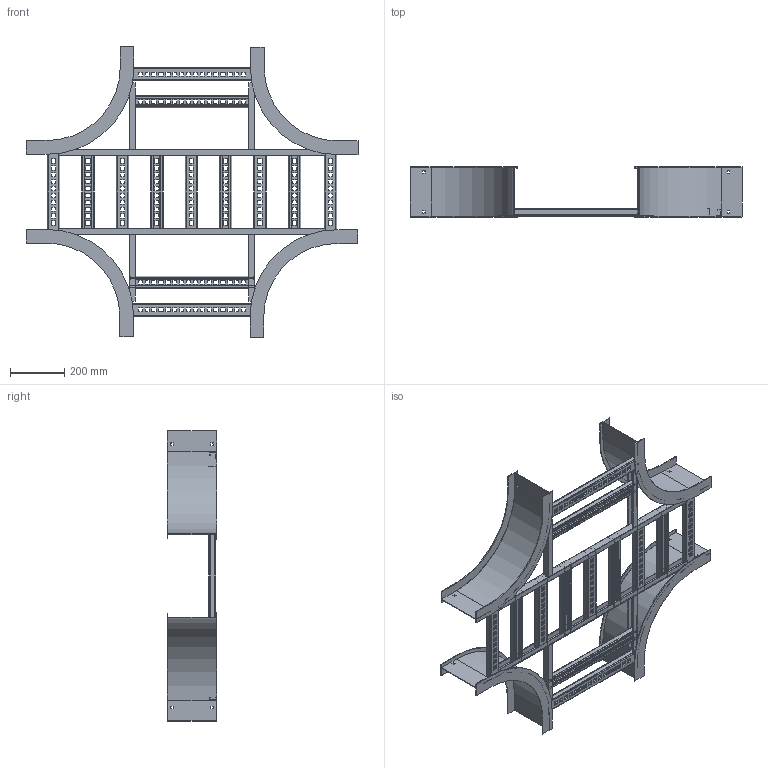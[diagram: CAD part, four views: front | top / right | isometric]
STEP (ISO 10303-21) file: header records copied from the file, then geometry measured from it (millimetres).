
FILE_DESCRIPTION((''),'2;1');
FILE_NAME('AHF71218VEX12_ASM','2010-02-02T',('erouzier'),(''),'PRO/ENGINEER BY PARAMETRIC TECHNOLOGY CORPORATION, 2008510','PRO/ENGINEER BY PARAMETRIC TECHNOLOGY CORPORATION, 2008510','');
FILE_SCHEMA(('CONFIG_CONTROL_DESIGN'));
Length unit declared in the file: inch
Products named in the file (18): CDS001813-7-90-12-I; CDS002159L12-P_AF2374; CDS002159L12-P_AF2375; CDS002159L12-P_AF2376; CDS002159L12-P_AF2377; CDS002159L12-P_AF2378; CDS002159L12-P_AF2379; CDS002159L12-P_AF2380; CDS002159L12-P_AF2382; CDS002159L12-P_AF2381; CDS000495_GEN_AF2172; CDS000495_GEN_AF2173; CDS000495_GEN_AF2176; CDS000495_GEN_AF2177; CDS000495_GEN_AF2174; CDS000495_GEN_AF2175; CDS002159L18-P; AHF71218VEX12_ASM
Assembly tree (23 placements, depth 2):
  AHF71218VEX12_ASM
    CDS001813-7-90-12-I  x4
    CDS002159L12-P_AF2374
    CDS002159L12-P_AF2375
    CDS002159L12-P_AF2376
    CDS002159L12-P_AF2377
    CDS002159L12-P_AF2378
    CDS002159L12-P_AF2379
    CDS002159L12-P_AF2380
    CDS002159L12-P_AF2382
    CDS002159L12-P_AF2381
    CDS000495_GEN_AF2172
    CDS000495_GEN_AF2173
    CDS000495_GEN_AF2176
    CDS000495_GEN_AF2177
    CDS000495_GEN_AF2174
    CDS000495_GEN_AF2175
    CDS002159L18-P  x4
Bounding box: 1224.79 x 183.9 x 1072.39 mm (x, y, z)
Volume: 2924800.5 mm3; surface area: 2847173.9 mm2
Topology: 23 solids, 23 shells, 1850 faces, 5412 edges, 3608 vertices
Faces by surface type: plane 1067, cylinder 783
Entity records: 42471 total; most frequent: CARTESIAN_POINT 7371, DIRECTION 7310, ORIENTED_EDGE 7296, EDGE_CURVE 3648, VECTOR 2568, LINE 2568, VERTEX_POINT 2432, AXIS2_PLACEMENT_3D 2371
